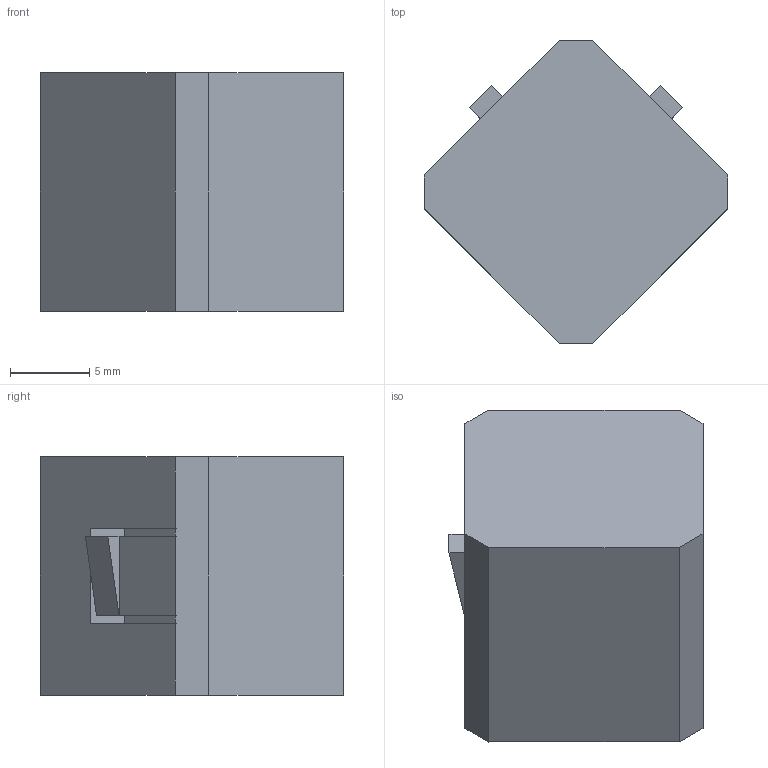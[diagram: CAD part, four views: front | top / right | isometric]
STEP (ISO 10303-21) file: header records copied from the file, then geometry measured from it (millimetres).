
FILE_DESCRIPTION (( 'STEP AP214' ), '1' );
FILE_NAME ('Male Connector.STEP', '2025-10-25T21:58:48', ( '' ), ( '' ), 'SwSTEP 2.0', 'SolidWorks 2025', '' );
FILE_SCHEMA (( 'AUTOMOTIVE_DESIGN' ));
Length unit declared in the file: millimetre
Products named in the file (1): Male Connector
Bounding box: 19.09 x 19.09 x 15 mm (x, y, z)
Volume: 3187.5 mm3; surface area: 1660.7 mm2
Topology: 1 solids, 1 shells, 34 faces, 86 edges, 54 vertices
Faces by surface type: plane 34
Entity records: 1013 total; most frequent: CARTESIAN_POINT 175, ORIENTED_EDGE 172, DIRECTION 156, LINE 86, EDGE_CURVE 86, VECTOR 86, VERTEX_POINT 54, AXIS2_PLACEMENT_3D 35
